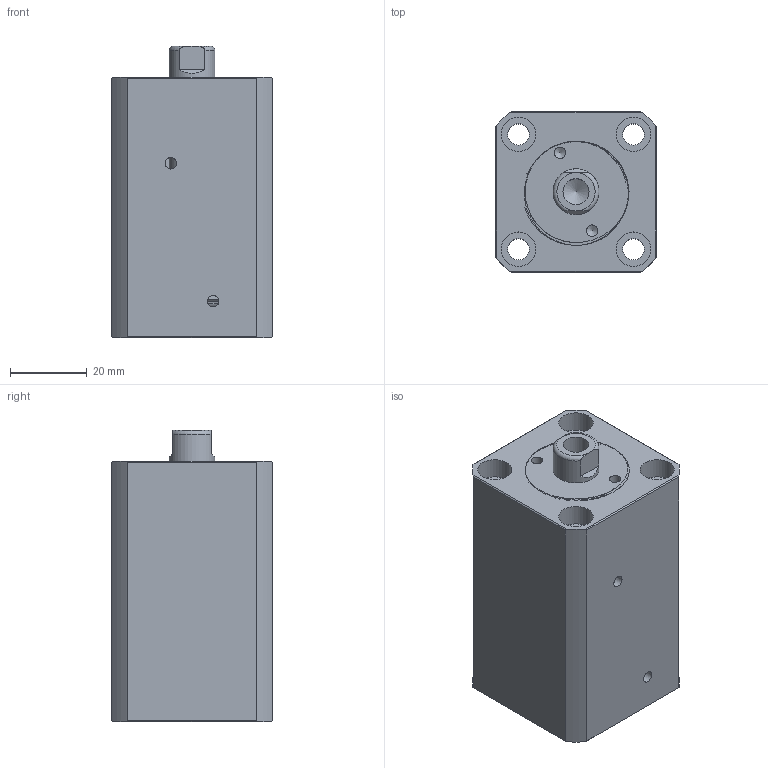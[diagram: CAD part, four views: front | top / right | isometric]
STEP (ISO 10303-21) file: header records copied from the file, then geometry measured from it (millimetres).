
FILE_DESCRIPTION(/* description */ (''),/* implementation_level */ '2;1');
FILE_NAME(/* name */ 'CHTB-sdmb20x25n.stp',/* time_stamp */ '2022-04-29T15:55:01+08:00',/* author */ (''),/* organization */ (''),/* preprocessor_version */ 'ST-DEVELOPER v16.7',/* originating_system */ 'SIEMENS PLM Software NX 12.0',/* authorisation */ '');
FILE_SCHEMA (('AUTOMOTIVE_DESIGN { 1 0 10303 214 3 1 1 1 }'));
Length unit declared in the file: millimetre
Products named in the file (1): CHTB-sdmb20x25n
Bounding box: 42 x 42 x 76 mm (x, y, z)
Volume: 102803 mm3; surface area: 32804.2 mm2
Topology: 3 solids, 3 shells, 506 faces, 1382 edges, 926 vertices
Faces by surface type: plane 311, extrusion 113, cylinder 50, torus 18, bspline 11, cone 3
Full cylindrical faces by diameter (mm): 2.5 x2, 3 x4, 5.6 x4, 6.8 x1, 8 x2, 9 x8, 12 x2, 16 x2, 18 x1, 20 x5, 26.5 x9
Entity records: 24813 total; most frequent: CARTESIAN_POINT 10344, ORIENTED_EDGE 2582, DIRECTION 1926, EDGE_CURVE 1291, VECTOR 988, VERTEX_POINT 902, LINE 875, EDGE_LOOP 614
